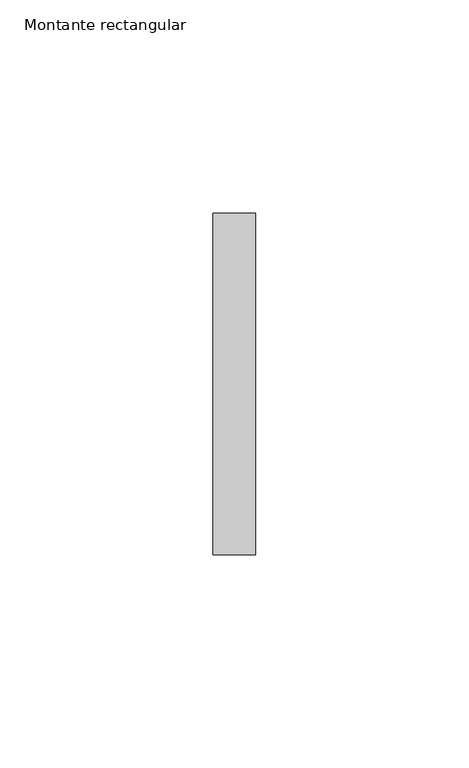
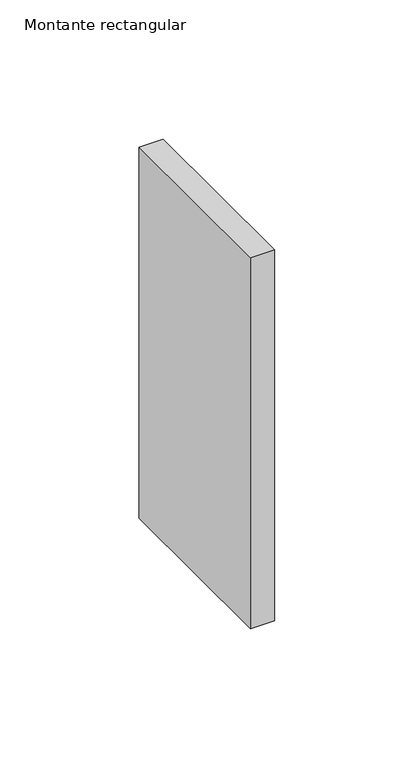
"""IFC4 building model written with IfcOpenShell, lengths in millimetres: member geometry, Montante rectangular : Junta de paves."""

from ifc_helpers import new_model, si_unit, frame, origin, place, context, project, spatial, polyline, outline, extrude, source, transform, mapped, element, save


def montante_rectangular_cf6d9dcd(model_context):
    return source(origin(), model_context, "Body", "SweptSolid", [
        extrude(outline(polyline([(5.0, 40.0), (5.0, -40.0), (-5.0, -40.0), (-5.0, 40.0), (5.0, 40.0)])), frame((0.0, 0.0, -162.5), z_axis=(0.0, 0.0, 1.0), x_axis=(1.0, 0.0, 0.0)), (0.0, 0.0, 1.0), 162.5),
    ])


if __name__ == "__main__":
    model = new_model("IFC4")
    model_context = context("Model", 3, world=origin())
    ifc_project = project(units=[si_unit("LENGTHUNIT", "METRE", prefix="MILLI")], contexts=[model_context])
    site = spatial("IfcSite", under=ifc_project)
    building = spatial("IfcBuilding", under=site)
    placement = place(None, origin())
    montante_rectangular_shape = montante_rectangular_cf6d9dcd(model_context)
    element("IfcMember", 1, ObjectType="Montante rectangular : Junta de paves", at=placement, inside=building, context=model_context, shape_type="MappedRepresentation", body=[
        mapped(montante_rectangular_shape, transform((0.0, 0.0, 0.0), x_axis=(1.0, 0.0, 0.0), y_axis=(0.0, 1.0, 0.0), z_axis=(0.0, 0.0, 1.0))),
    ])
    save(model, "model.ifc")
